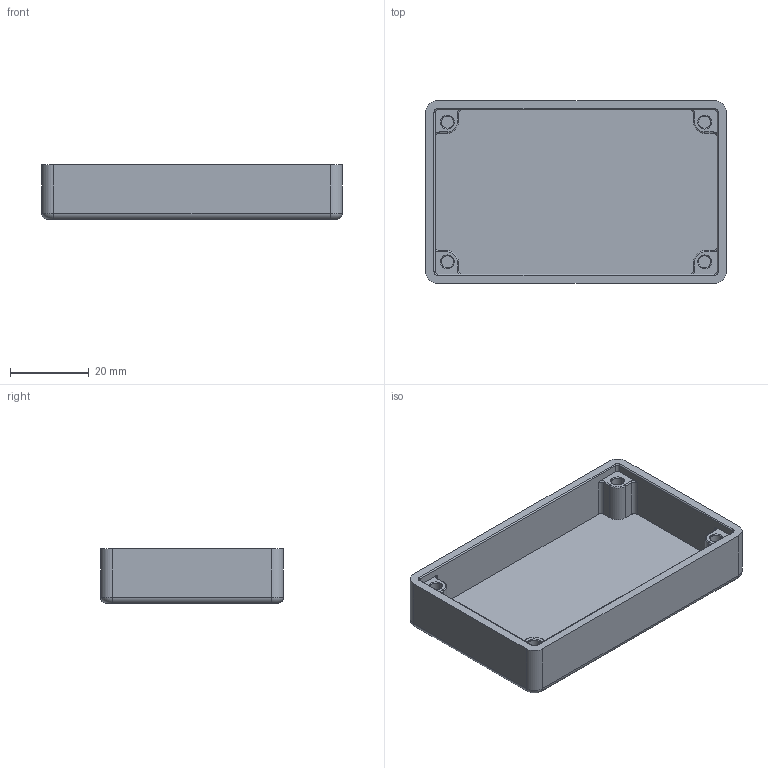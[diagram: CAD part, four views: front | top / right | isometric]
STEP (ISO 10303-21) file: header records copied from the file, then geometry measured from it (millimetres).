
FILE_DESCRIPTION (( 'STEP AP214' ), '1' );
FILE_NAME ('Case Top.STEP', '2023-02-12T19:10:06', ( '' ), ( '' ), 'SwSTEP 2.0', 'SolidWorks 2022', '' );
FILE_SCHEMA (( 'AUTOMOTIVE_DESIGN' ));
Length unit declared in the file: millimetre
Products named in the file (1): Case Top
Bounding box: 76.42 x 46.5 x 13.9 mm (x, y, z)
Volume: 13575.6 mm3; surface area: 13074.3 mm2
Topology: 1 solids, 1 shells, 99 faces, 236 edges, 144 vertices
Faces by surface type: cylinder 44, plane 27, torus 20, cone 8
Entity records: 2924 total; most frequent: DIRECTION 544, CARTESIAN_POINT 520, ORIENTED_EDGE 472, EDGE_CURVE 236, AXIS2_PLACEMENT_3D 216, VERTEX_POINT 144, CIRCLE 116, VECTOR 112
